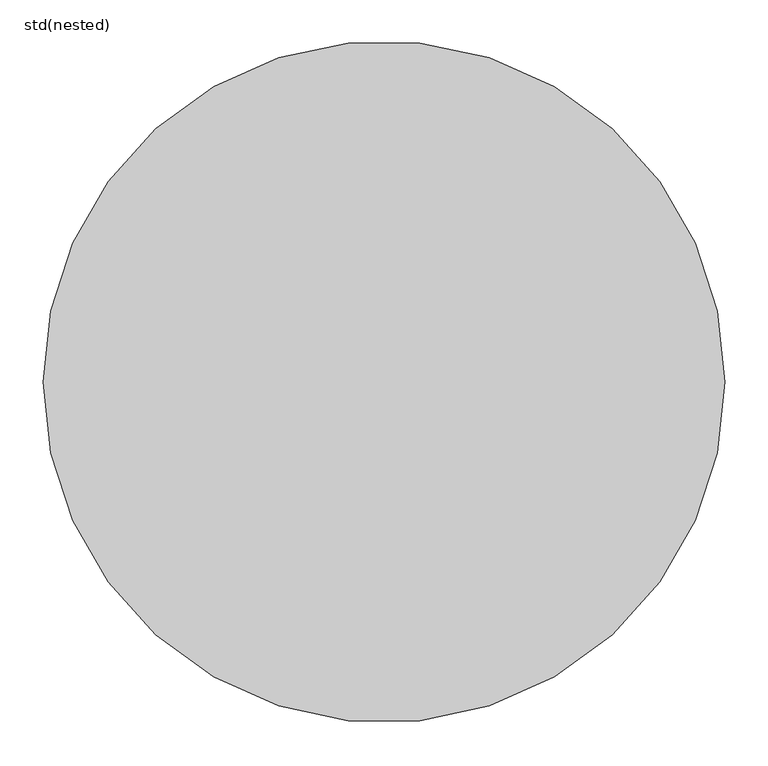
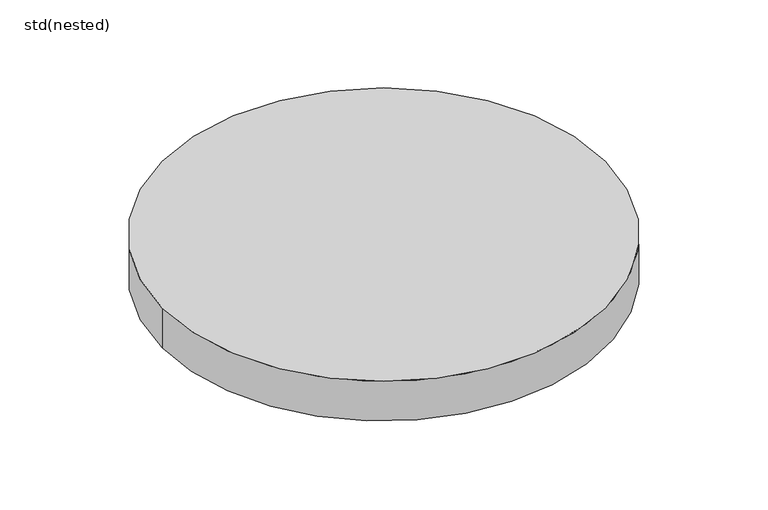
"""IFC4 building model written with IfcOpenShell, lengths in millimetres: unitary equipment geometry, ZZZ_do not use_ME_ST_WPB_manhole covers_ACO : std(nested)."""

import ifcopenshell
import ifcopenshell.guid

model = None  # the IFC model being written
_history = None  # IfcOwnerHistory: only IFC2X3 demands one
_inside = {}  # id of a spatial element -> (the spatial element, [elements in it])
_under = {}  # id of a project, library or spatial element -> (it, [spatial elements below it])
_declared = {}  # id of a project -> (the project, [libraries it declares])
_typed = {}  # id of a type object -> (the type object, [elements of that type])
_made_of = {}  # id of a material, layer set ... -> (it, [elements and type objects made of it])


def new_model(schema):
    """Start an empty IFC model of exactly this schema.

    Asked for "IFC4X3", IfcOpenShell would pick the latest addendum, in which some entities
    have other attributes; the version numbers below select the first issue.
    IFC2X3 requires an IfcOwnerHistory on every rooted entity: one is made here for all.
    """
    global model, _history
    if schema == "IFC4X3":
        model = ifcopenshell.file(schema_version=(4, 3, 0, 0))
    else:
        model = ifcopenshell.file(schema=schema)
    _inside.clear()
    _under.clear()
    _declared.clear()
    _typed.clear()
    _made_of.clear()
    _history = None
    if model.schema == "IFC2X3":
        org = make("IfcOrganization", Name="unknown")
        user = make(
            "IfcPersonAndOrganization",
            ThePerson=make("IfcPerson", FamilyName="unknown"),
            TheOrganization=org,
        )
        app = make(
            "IfcApplication",
            ApplicationDeveloper=org,
            Version="unknown",
            ApplicationFullName="unknown",
            ApplicationIdentifier="unknown",
        )
        _history = make(
            "IfcOwnerHistory",
            OwningUser=user,
            OwningApplication=app,
            ChangeAction="ADDED",
            CreationDate=0,
        )
    return model


def make(cls, **values):
    """One entity of the class cls with the attributes given. An attribute that is None is left unset."""
    return model.create_entity(
        cls, **{name: value for name, value in values.items() if value is not None}
    )


def rooted(cls, **values):
    """An entity with a GlobalId (a new one), such as an element, a storey or a relation."""
    return make(cls, GlobalId=ifcopenshell.guid.new(), OwnerHistory=_history, **values)


def si_unit(unit_type, name, prefix=None):
    """IfcSIUnit, for example si_unit("LENGTHUNIT", "METRE", prefix="MILLI")."""
    return make("IfcSIUnit", UnitType=unit_type, Prefix=prefix, Name=name)


def assignment(units):
    """IfcUnitAssignment: the units of a project."""
    return None if units is None else make("IfcUnitAssignment", Units=units)


def point(xyz):
    """IfcCartesianPoint."""
    return None if xyz is None else make("IfcCartesianPoint", Coordinates=xyz)


def direction(xyz):
    """IfcDirection."""
    return None if xyz is None else make("IfcDirection", DirectionRatios=xyz)


def frame(location, z_axis=None, x_axis=None):
    """IfcAxis2Placement3D, a coordinate frame: its origin and axes. An axis left out is left unset."""
    return make(
        "IfcAxis2Placement3D",
        Location=point(location),
        Axis=direction(z_axis),
        RefDirection=direction(x_axis),
    )


def frame_2d(location, x_axis=None):
    """IfcAxis2Placement2D, a coordinate frame in the plane: its origin and x axis."""
    return make(
        "IfcAxis2Placement2D", Location=point(location), RefDirection=direction(x_axis)
    )


def origin():
    """The frame at (0, 0, 0) with its axes left unset."""
    return frame((0.0, 0.0, 0.0))


def origin_2d():
    """The frame at (0, 0) in the plane with its x axis left unset."""
    return frame_2d((0.0, 0.0))


def place(relative_to, where):
    """IfcLocalPlacement: puts the frame where relative to a parent placement (None: the world)."""
    return make(
        "IfcLocalPlacement", PlacementRelTo=relative_to, RelativePlacement=where
    )


def context(
    kind, dimensions, precision=None, world=None, true_north=None, identifier=None
):
    """IfcGeometricRepresentationContext, for example the 3D "Model" context."""
    return make(
        "IfcGeometricRepresentationContext",
        ContextIdentifier=identifier,
        ContextType=kind,
        CoordinateSpaceDimension=dimensions,
        Precision=precision,
        WorldCoordinateSystem=world,
        TrueNorth=true_north,
    )


def project(units=None, contexts=None):
    """IfcProject with its units and contexts."""
    return rooted(
        "IfcProject",
        Name="project",
        RepresentationContexts=contexts,
        UnitsInContext=assignment(units),
    )


def spatial(cls, under=None, at=None, **own):
    """A site, building, storey or space (cls), placed at a placement, below another one or the project."""
    s = rooted(cls, ObjectPlacement=at, **own)
    if under is not None:
        _under.setdefault(under.id(), (under, []))[1].append(s)
    return s


def circle_curve(where, radius):
    """IfcCircle in the frame where."""
    return make("IfcCircle", Position=where, Radius=radius)


def trimmed(basis, trim1, trim2, sense, master):
    """IfcTrimmedCurve: the piece of a basis curve between two trims."""
    return make(
        "IfcTrimmedCurve",
        BasisCurve=basis,
        Trim1=trim1,
        Trim2=trim2,
        SenseAgreement=sense,
        MasterRepresentation=master,
    )


def segment(curve, same_sense, transition):
    """IfcCompositeCurveSegment."""
    return make(
        "IfcCompositeCurveSegment",
        Transition=transition,
        SameSense=same_sense,
        ParentCurve=curve,
    )


def composite_curve(segments, self_intersect=None):
    """IfcCompositeCurve: segments joined end to end."""
    return make("IfcCompositeCurve", Segments=segments, SelfIntersect=self_intersect)


def outline(outer, holes=None, kind="AREA"):
    """IfcArbitraryClosedProfileDef: a profile drawn as a closed curve; with holes, ...WithVoids."""
    if holes is None:
        return make("IfcArbitraryClosedProfileDef", ProfileType=kind, OuterCurve=outer)
    return make(
        "IfcArbitraryProfileDefWithVoids",
        ProfileType=kind,
        OuterCurve=outer,
        InnerCurves=holes,
    )


def extrude(swept, where, along, depth):
    """IfcExtrudedAreaSolid: the profile swept, set in the frame where, extruded along a direction by depth."""
    return make(
        "IfcExtrudedAreaSolid",
        SweptArea=swept,
        Position=where,
        ExtrudedDirection=direction(along),
        Depth=depth,
    )


def shape(context_of_items, identifier, shape_type, items):
    """IfcShapeRepresentation: the items that make up one representation, for example the "Body"."""
    return make(
        "IfcShapeRepresentation",
        ContextOfItems=context_of_items,
        RepresentationIdentifier=identifier,
        RepresentationType=shape_type,
        Items=items,
    )


def source(mapping_origin, context_of_items, identifier, shape_type, items):
    """IfcRepresentationMap: a shape defined once, which mapped items show again and again."""
    return make(
        "IfcRepresentationMap",
        MappingOrigin=mapping_origin,
        MappedRepresentation=shape(context_of_items, identifier, shape_type, items),
    )


def transform(
    local_origin,
    x_axis=None,
    y_axis=None,
    z_axis=None,
    scale=None,
    scale2=None,
    scale3=None,
    uniform=True,
):
    """IfcCartesianTransformationOperator3D, or its non-uniform kind. x_axis, y_axis, z_axis: its Axis1, 2, 3."""
    if uniform:
        return make(
            "IfcCartesianTransformationOperator3D",
            Axis1=direction(x_axis),
            Axis2=direction(y_axis),
            LocalOrigin=point(local_origin),
            Scale=scale,
            Axis3=direction(z_axis),
        )
    return make(
        "IfcCartesianTransformationOperator3DnonUniform",
        Axis1=direction(x_axis),
        Axis2=direction(y_axis),
        LocalOrigin=point(local_origin),
        Scale=scale,
        Axis3=direction(z_axis),
        Scale2=scale2,
        Scale3=scale3,
    )


def mapped(mapping_source, mapping_target):
    """IfcMappedItem: shows the shape of a source again, moved by a transform."""
    return make(
        "IfcMappedItem", MappingSource=mapping_source, MappingTarget=mapping_target
    )


def made_of(thing, what):
    """Note that an element or type object is made of a material, layer set ...; save() writes the relation."""
    if what is not None:
        _made_of.setdefault(what.id(), (what, []))[1].append(thing)
    return thing


def element(
    cls,
    number,
    at=None,
    inside=None,
    cuts=None,
    type_object=None,
    material=None,
    context=None,
    identifier="Body",
    shape_type=None,
    held_by="IfcProductDefinitionShape",
    body=None,
    shapes=None,
    **own,
):
    """One element of the class cls, such as IfcWall. Its Tag is "e" and its number.

    at: its placement. inside: the storey or other place that contains it. cuts: it is an
    opening in that element (IfcRelVoidsElement). A single representation is given by context,
    identifier, shape_type and body (its items); several are given by shapes. held_by: the class
    of the entity that holds the representations. save() writes the other relations.
    """
    e = rooted(cls, Tag="e%d" % number, ObjectPlacement=at, **own)
    if body is not None:
        shapes = [shape(context, identifier, shape_type, body)]
    if shapes is not None:
        e.Representation = make(held_by, Representations=shapes)
    if inside is not None:
        _inside.setdefault(inside.id(), (inside, []))[1].append(e)
    if cuts is not None:
        rooted(
            "IfcRelVoidsElement", RelatingBuildingElement=cuts, RelatedOpeningElement=e
        )
    if type_object is not None:
        _typed.setdefault(type_object.id(), (type_object, []))[1].append(e)
    return made_of(e, material)


def aggregate(whole, parts):
    """IfcRelAggregates: a whole, such as a stair, and the parts it consists of."""
    return rooted("IfcRelAggregates", RelatingObject=whole, RelatedObjects=parts)


def save(model, path):
    """Write the relations noted so far, then the file.

    IfcRelAggregates (storeys below a building ...), IfcRelContainedInSpatialStructure (elements
    in a storey), IfcRelDefinesByType, IfcRelAssociatesMaterial and IfcRelDeclares: one each for
    every whole, place, type object, material and project.
    """
    for whole, parts in _under.values():
        aggregate(whole, parts)
    for where, things in _inside.values():
        rooted(
            "IfcRelContainedInSpatialStructure",
            RelatedElements=things,
            RelatingStructure=where,
        )
    for kind, things in _typed.values():
        rooted("IfcRelDefinesByType", RelatedObjects=things, RelatingType=kind)
    for what, things in _made_of.values():
        rooted("IfcRelAssociatesMaterial", RelatedObjects=things, RelatingMaterial=what)
    for by, libraries in _declared.values():
        rooted("IfcRelDeclares", RelatingContext=by, RelatedDefinitions=libraries)
    model.write(path)


def std_nested_54cb986b(model_context):
    return source(origin(), model_context, "Body", "SweptSolid", [
        extrude(outline(composite_curve([segment(trimmed(circle_curve(origin_2d(), 395.0), [point((-395.0, 0.0))], [point((395.0, 0.0))], False, "CARTESIAN"), True, "CONTINUOUS"), segment(trimmed(circle_curve(origin_2d(), 395.0), [point((395.0, 0.0))], [point((-395.0, 0.0))], False, "CARTESIAN"), True, "CONTINUOUS")], self_intersect=False)), frame((0.0, 0.0, -75.0), z_axis=(0.0, 0.0, 1.0), x_axis=(1.0, 0.0, 0.0)), (0.0, 0.0, 1.0), 75.0),
    ])


if __name__ == "__main__":
    model = new_model("IFC4")
    model_context = context("Model", 3, world=origin())
    ifc_project = project(units=[si_unit("LENGTHUNIT", "METRE", prefix="MILLI")], contexts=[model_context])
    site = spatial("IfcSite", under=ifc_project)
    building = spatial("IfcBuilding", under=site)
    placement = place(None, origin())
    std_nested_shape = std_nested_54cb986b(model_context)
    element("IfcUnitaryEquipment", 1, ObjectType="ZZZ_do not use_ME_ST_WPB_manhole covers_ACO : std(nested)", at=placement, inside=building, context=model_context, shape_type="MappedRepresentation", body=[
        mapped(std_nested_shape, transform((0.0, 0.0, 0.0), x_axis=(1.0, 0.0, 0.0), y_axis=(0.0, 1.0, 0.0), z_axis=(0.0, 0.0, 1.0))),
    ])
    save(model, "model.ifc")
